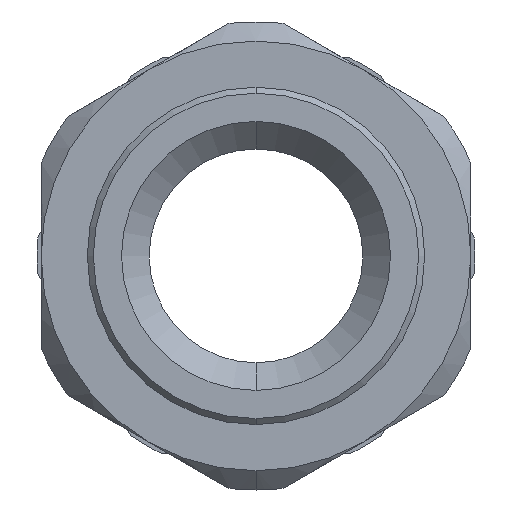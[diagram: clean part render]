
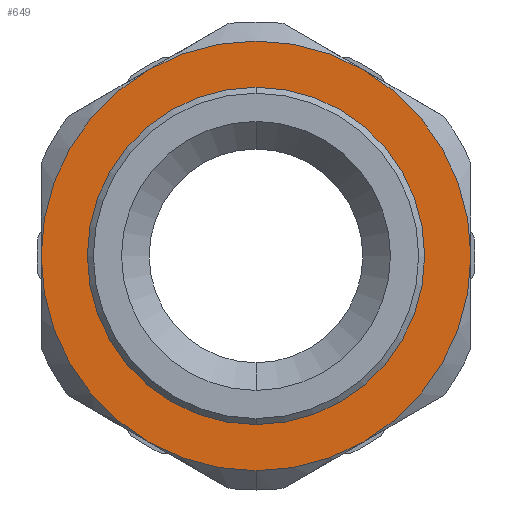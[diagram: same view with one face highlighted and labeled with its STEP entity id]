
A CAD part, front view. The second image highlights one B-rep face of the part: STEP entity #649.
In plain terms, the highlighted planar face has unit normal (0, -1, 0).
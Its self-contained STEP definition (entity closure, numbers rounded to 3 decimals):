
#63 = AXIS2_PLACEMENT_3D ( 'NONE', #1425, #1426, #1427 ) ;
#65 = FACE_OUTER_BOUND ( 'NONE', #858, .T. ) ;
#70 = FACE_BOUND ( 'NONE', #1466, .T. ) ;
#142 = AXIS2_PLACEMENT_3D ( 'NONE', #1325, #1326, #1327 ) ;
#146 = AXIS2_PLACEMENT_3D ( 'NONE', #1322, #1323, #1324 ) ;
#147 = AXIS2_PLACEMENT_3D ( 'NONE', #1310, #1311, #1312 ) ;
#148 = AXIS2_PLACEMENT_3D ( 'NONE', #1307, #1308, #1309 ) ;
#152 = AXIS2_PLACEMENT_3D ( 'NONE', #1319, #1320, #1321 ) ;
#165 = AXIS2_PLACEMENT_3D ( 'NONE', #1313, #1314, #1315 ) ;
#167 = AXIS2_PLACEMENT_3D ( 'NONE', #1316, #1317, #1318 ) ;
#255 = VERTEX_POINT ( 'NONE', #1151 ) ;
#256 = VERTEX_POINT ( 'NONE', #1152 ) ;
#258 = VERTEX_POINT ( 'NONE', #1154 ) ;
#259 = VERTEX_POINT ( 'NONE', #1155 ) ;
#262 = VERTEX_POINT ( 'NONE', #1158 ) ;
#300 = VERTEX_POINT ( 'NONE', #1196 ) ;
#301 = VERTEX_POINT ( 'NONE', #1197 ) ;
#330 = VERTEX_POINT ( 'NONE', #1226 ) ;
#331 = VERTEX_POINT ( 'NONE', #1227 ) ;
#568 = CIRCLE ( 'NONE', #142, 17.9 ) ;
#569 = CIRCLE ( 'NONE', #146, 14.05 ) ;
#570 = CIRCLE ( 'NONE', #152, 17.9 ) ;
#571 = CIRCLE ( 'NONE', #167, 17.9 ) ;
#572 = CIRCLE ( 'NONE', #165, 17.9 ) ;
#573 = CIRCLE ( 'NONE', #147, 17.9 ) ;
#574 = CIRCLE ( 'NONE', #148, 17.9 ) ;
#613 = EDGE_CURVE ( 'NONE', #301, #262, #574, .T. ) ;
#614 = EDGE_CURVE ( 'NONE', #255, #300, #573, .T. ) ;
#615 = EDGE_CURVE ( 'NONE', #256, #255, #572, .T. ) ;
#616 = EDGE_CURVE ( 'NONE', #258, #256, #571, .T. ) ;
#617 = EDGE_CURVE ( 'NONE', #262, #259, #570, .T. ) ;
#618 = EDGE_CURVE ( 'NONE', #331, #330, #569, .T. ) ;
#619 = EDGE_CURVE ( 'NONE', #259, #258, #568, .T. ) ;
#649 = ADVANCED_FACE ( 'NONE', ( #70, #65 ), #1424, .F. ) ;
#766 = EDGE_CURVE ( 'NONE', #330, #331, #2418, .T. ) ;
#777 = EDGE_CURVE ( 'NONE', #300, #301, #2482, .T. ) ;
#858 = EDGE_LOOP ( 'NONE', ( #1041, #1043, #1042, #1044, #1045, #1046, #1047 ) ) ;
#1039 = ORIENTED_EDGE ( 'NONE', *, *, #766, .F. ) ;
#1040 = ORIENTED_EDGE ( 'NONE', *, *, #618, .F. ) ;
#1041 = ORIENTED_EDGE ( 'NONE', *, *, #617, .T. ) ;
#1042 = ORIENTED_EDGE ( 'NONE', *, *, #616, .T. ) ;
#1043 = ORIENTED_EDGE ( 'NONE', *, *, #619, .T. ) ;
#1044 = ORIENTED_EDGE ( 'NONE', *, *, #615, .T. ) ;
#1045 = ORIENTED_EDGE ( 'NONE', *, *, #614, .T. ) ;
#1046 = ORIENTED_EDGE ( 'NONE', *, *, #777, .T. ) ;
#1047 = ORIENTED_EDGE ( 'NONE', *, *, #613, .T. ) ;
#1151 = CARTESIAN_POINT ( 'NONE',  ( -8.95, 1., -15.502 ) ) ;
#1152 = CARTESIAN_POINT ( 'NONE',  ( -17.9, 1., 0. ) ) ;
#1154 = CARTESIAN_POINT ( 'NONE',  ( -8.95, 1., 15.502 ) ) ;
#1155 = CARTESIAN_POINT ( 'NONE',  ( 8.95, 1., 15.502 ) ) ;
#1158 = CARTESIAN_POINT ( 'NONE',  ( 17.9, 1., 0. ) ) ;
#1196 = CARTESIAN_POINT ( 'NONE',  ( 0., 1., -17.9 ) ) ;
#1197 = CARTESIAN_POINT ( 'NONE',  ( 8.95, 1., -15.502 ) ) ;
#1226 = CARTESIAN_POINT ( 'NONE',  ( 0., 1., -14.05 ) ) ;
#1227 = CARTESIAN_POINT ( 'NONE',  ( 0., 1., 14.05 ) ) ;
#1307 = CARTESIAN_POINT ( 'NONE',  ( 0., 1., 0. ) ) ;
#1308 = DIRECTION ( 'NONE',  ( 0., -1., 0. ) ) ;
#1309 = DIRECTION ( 'NONE',  ( 0., 0., -1. ) ) ;
#1310 = CARTESIAN_POINT ( 'NONE',  ( 0., 1., 0. ) ) ;
#1311 = DIRECTION ( 'NONE',  ( 0., -1., 0. ) ) ;
#1312 = DIRECTION ( 'NONE',  ( 0., 0., -1. ) ) ;
#1313 = CARTESIAN_POINT ( 'NONE',  ( 0., 1., 0. ) ) ;
#1314 = DIRECTION ( 'NONE',  ( 0., -1., 0. ) ) ;
#1315 = DIRECTION ( 'NONE',  ( 0., 0., -1. ) ) ;
#1316 = CARTESIAN_POINT ( 'NONE',  ( 0., 1., 0. ) ) ;
#1317 = DIRECTION ( 'NONE',  ( 0., -1., 0. ) ) ;
#1318 = DIRECTION ( 'NONE',  ( 0., 0., -1. ) ) ;
#1319 = CARTESIAN_POINT ( 'NONE',  ( 0., 1., 0. ) ) ;
#1320 = DIRECTION ( 'NONE',  ( 0., -1., 0. ) ) ;
#1321 = DIRECTION ( 'NONE',  ( 0., 0., -1. ) ) ;
#1322 = CARTESIAN_POINT ( 'NONE',  ( 0., 1., 0. ) ) ;
#1323 = DIRECTION ( 'NONE',  ( 0., -1., 0. ) ) ;
#1324 = DIRECTION ( 'NONE',  ( 0., 0., -1. ) ) ;
#1325 = CARTESIAN_POINT ( 'NONE',  ( 0., 1., 0. ) ) ;
#1326 = DIRECTION ( 'NONE',  ( 0., -1., 0. ) ) ;
#1327 = DIRECTION ( 'NONE',  ( 0., 0., -1. ) ) ;
#1424 = PLANE ( 'NONE',  #63 ) ;
#1425 = CARTESIAN_POINT ( 'NONE',  ( -19.5, 1., 0. ) ) ;
#1426 = DIRECTION ( 'NONE',  ( 0., 1., 0. ) ) ;
#1427 = DIRECTION ( 'NONE',  ( 0., 0., 1. ) ) ;
#1466 = EDGE_LOOP ( 'NONE', ( #1039, #1040 ) ) ;
#1548 = AXIS2_PLACEMENT_3D ( 'NONE', #2293, #2294, #2295 ) ;
#1605 = AXIS2_PLACEMENT_3D ( 'NONE', #2229, #2242, #2243 ) ;
#2229 = CARTESIAN_POINT ( 'NONE',  ( 0., 1., 0. ) ) ;
#2242 = DIRECTION ( 'NONE',  ( 0., -1., 0. ) ) ;
#2243 = DIRECTION ( 'NONE',  ( 0., 0., -1. ) ) ;
#2293 = CARTESIAN_POINT ( 'NONE',  ( 0., 1., 0. ) ) ;
#2294 = DIRECTION ( 'NONE',  ( 0., -1., 0. ) ) ;
#2295 = DIRECTION ( 'NONE',  ( 0., 0., -1. ) ) ;
#2418 = CIRCLE ( 'NONE', #1605, 14.05 ) ;
#2482 = CIRCLE ( 'NONE', #1548, 17.9 ) ;
